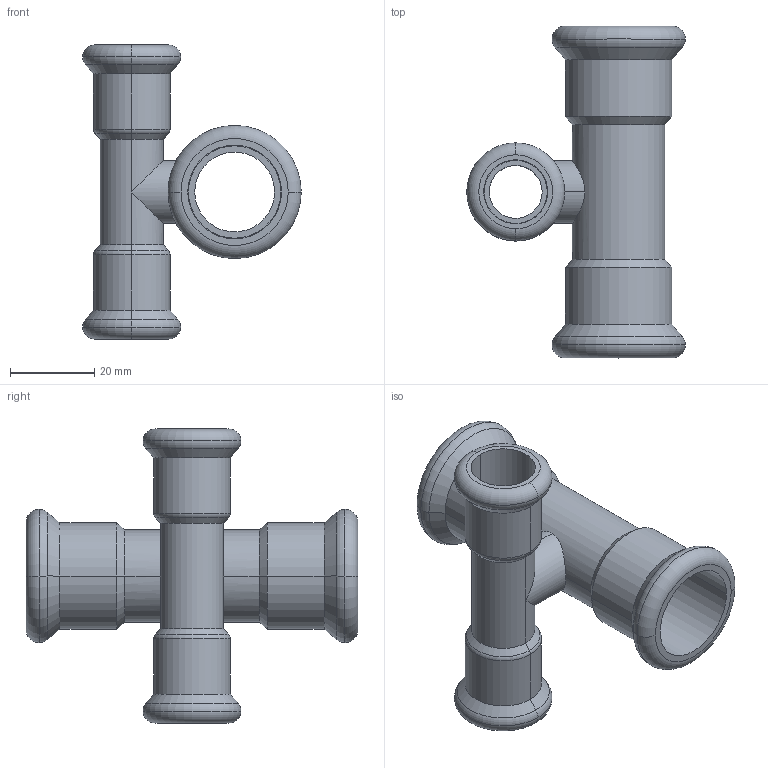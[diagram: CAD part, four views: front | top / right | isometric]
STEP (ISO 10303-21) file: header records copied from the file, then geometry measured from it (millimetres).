
FILE_DESCRIPTION(('CoCreate Modeling STEP Export'),'2;1');
FILE_NAME('C1434 22x15x22x15.stp','2014-11-12T16:28:15',(''),(''),'CoCreate Modeling STEP processor for AP214 (Solid Model)','CoCreate Modeling 17.00A 17-Jun-2010 (C) Parametric Technology GmbH','');
FILE_SCHEMA(('AUTOMOTIVE_DESIGN { 1 0 10303 214 1 1 1 1 }'));
Length unit declared in the file: millimetre
Products named in the file (2): C1434_22x15x22x15
Assembly tree (1 placements, depth 2):
  C1434_22x15x22x15
    C1434_22x15x22x15
Bounding box: 52 x 79 x 70 mm (x, y, z)
Volume: 18735.3 mm3; surface area: 20786.6 mm2
Topology: 1 solids, 2 shells, 88 faces, 186 edges, 110 vertices
Faces by surface type: cylinder 40, torus 20, cone 16, plane 12
Entity records: 3393 total; most frequent: CARTESIAN_POINT 1757, ORIENTED_EDGE 372, DIRECTION 281, EDGE_CURVE 186, AXIS2_PLACEMENT_3D 114, VERTEX_POINT 110, EDGE_LOOP 100, FACE_OUTER_BOUND 88
